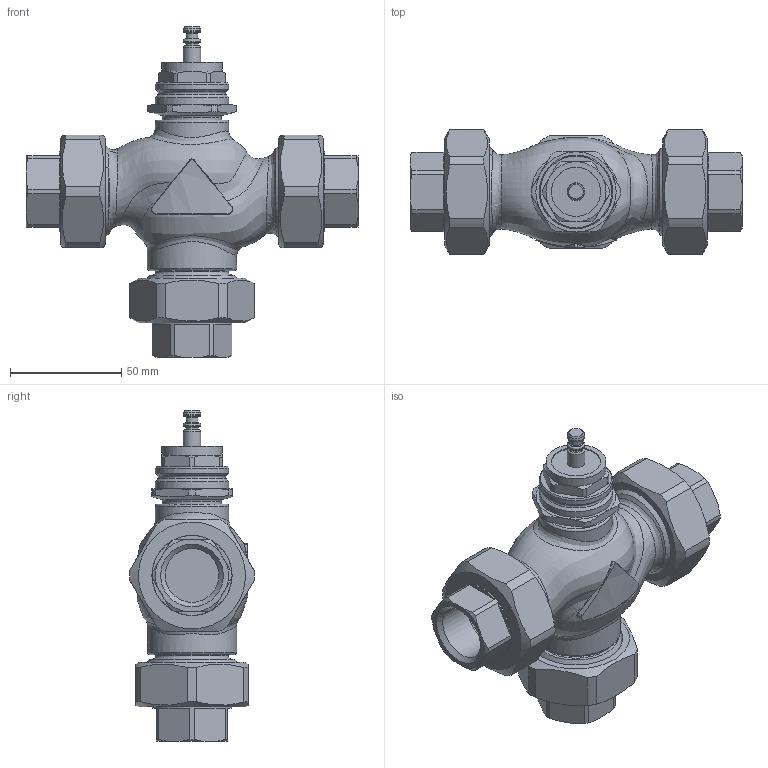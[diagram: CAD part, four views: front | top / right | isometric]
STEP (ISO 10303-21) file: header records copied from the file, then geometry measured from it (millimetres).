
FILE_DESCRIPTION(/* description */ (''),/* implementation_level */ '2;1');
FILE_NAME(/* name */ 'rv111s_dn20_3_T.stp',/* time_stamp */ '2012-02-28T09:51:16+01:00',/* author */ ('KLIMES'),/* organization */ ('LDM'),/* preprocessor_version */ 'ST-DEVELOPER v11',/* originating_system */ 'SIEMENS PLM Software NX 7.0',/* authorisation */ '');
FILE_SCHEMA (('CONFIG_CONTROL_DESIGN'));
Length unit declared in the file: millimetre
Products named in the file (1): klimEAFB3cu8
Bounding box: 149 x 55.98 x 148.5 mm (x, y, z)
Volume: 305533.4 mm3; surface area: 70519.6 mm2
Topology: 10 solids, 10 shells, 273 faces, 653 edges, 422 vertices
Faces by surface type: plane 111, cylinder 74, cone 55, bspline 20, torus 13
Full cylindrical faces by diameter (mm): 5.3 x1, 5.5 x1, 8 x3, 22 x1, 24.117 x3, 26.5 x1, 27 x1, 27.5 x3, 28 x3, 32.5 x1, 33 x3, 35.8 x3, 36 x3, 38 x3, 38.8 x3, 38.952 x3, 40 x1, 41.91 x3
Entity records: 13094 total; most frequent: CARTESIAN_POINT 7361, DIRECTION 1140, ORIENTED_EDGE 1070, EDGE_CURVE 535, AXIS2_PLACEMENT_3D 498, EDGE_LOOP 394, VERTEX_POINT 385, ADVANCED_FACE 273
